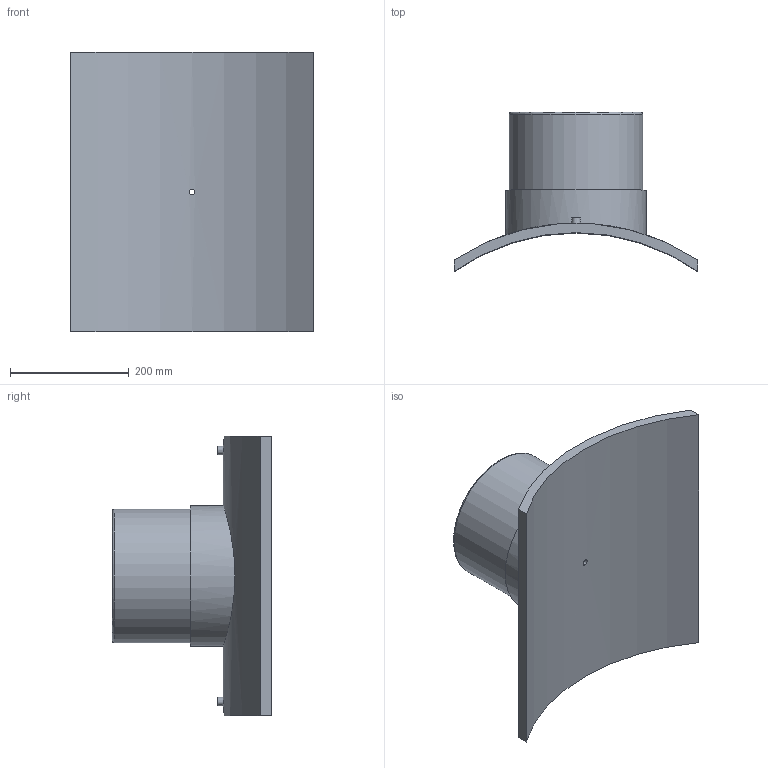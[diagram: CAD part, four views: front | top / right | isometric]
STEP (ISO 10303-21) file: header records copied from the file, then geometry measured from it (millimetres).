
FILE_DESCRIPTION(/* description */ ('PLASSON BRANCH SADDLE 710x225'),/* implementation_level */ '2;1');
FILE_NAME(/* name */ 'C:\Dropbox\KIMPROJECTS-Inventor 2019\99-16-3568-Processing\ElectroFusion Fittings\495803\stp\495803710225T.stp',/* time_stamp */ '2024-04-04T11:54:51+02:00',/* author */ ('KIM'),/* organization */ (''),/* preprocessor_version */ 'ST-DEVELOPER v17.2',/* originating_system */ 'Autodesk Inventor 2019',/* authorisation */ '');
FILE_SCHEMA (('AUTOMOTIVE_DESIGN { 1 0 10303 214 3 1 1 }'));
Length unit declared in the file: millimetre
Products named in the file (1): 495803710225T
Bounding box: 410 x 268.17 x 470 mm (x, y, z)
Volume: 6329480.3 mm3; surface area: 699432.3 mm2
Topology: 1 solids, 1 shells, 29 faces, 60 edges, 43 vertices
Faces by surface type: plane 13, cylinder 12, torus 2, cone 2
Full cylindrical faces by diameter (mm): 4 x2, 9.6 x1, 10 x2, 16 x1, 180 x1, 225 x1, 236.25 x1
Entity records: 1086 total; most frequent: CARTESIAN_POINT 400, DIRECTION 139, ORIENTED_EDGE 120, EDGE_CURVE 60, AXIS2_PLACEMENT_3D 60, VERTEX_POINT 43, EDGE_LOOP 41, CIRCLE 30
